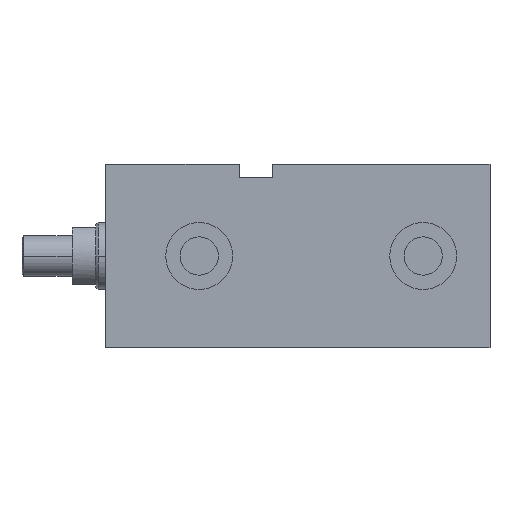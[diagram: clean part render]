
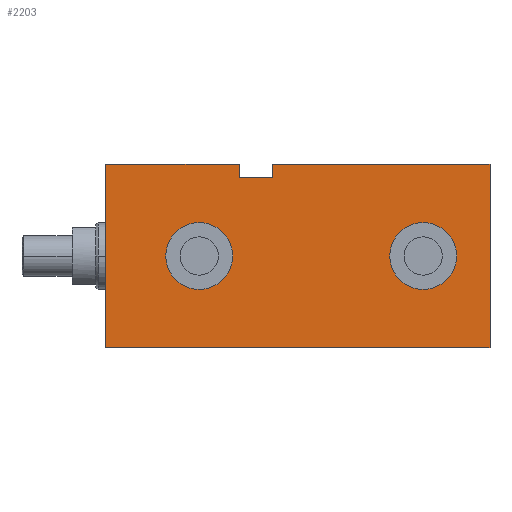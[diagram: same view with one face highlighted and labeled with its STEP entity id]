
A CAD part, left-side view. The second image highlights one B-rep face of the part: STEP entity #2203.
In plain terms, the highlighted planar face has unit normal (-1, 0, 0).
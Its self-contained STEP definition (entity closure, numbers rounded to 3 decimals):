
#36 = AXIS2_PLACEMENT_3D ( 'NONE', #1229, #2849, #1454 ) ;
#46 = DIRECTION ( 'NONE',  ( 0., 0., 1. ) ) ;
#64 = VECTOR ( 'NONE', #146, 1000. ) ;
#146 = DIRECTION ( 'NONE',  ( 0., 0., 1. ) ) ;
#203 = LINE ( 'NONE', #2627, #64 ) ;
#229 = VECTOR ( 'NONE', #793, 1000. ) ;
#243 = AXIS2_PLACEMENT_3D ( 'NONE', #2190, #631, #893 ) ;
#247 = VERTEX_POINT ( 'NONE', #1976 ) ;
#279 = CARTESIAN_POINT ( 'NONE',  ( -37.5, 115., -27.5 ) ) ;
#351 = CARTESIAN_POINT ( 'NONE',  ( -37.5, 20., 0. ) ) ;
#360 = EDGE_CURVE ( 'NONE', #1998, #728, #2748, .T. ) ;
#411 = CIRCLE ( 'NONE', #431, 10. ) ;
#431 = AXIS2_PLACEMENT_3D ( 'NONE', #453, #1992, #667 ) ;
#435 = LINE ( 'NONE', #928, #2770 ) ;
#453 = CARTESIAN_POINT ( 'NONE',  ( -37.5, 87., 0. ) ) ;
#566 = DIRECTION ( 'NONE',  ( 0., 0., 1. ) ) ;
#567 = VERTEX_POINT ( 'NONE', #2782 ) ;
#570 = CARTESIAN_POINT ( 'NONE',  ( -37.5, 65., 23.5 ) ) ;
#601 = CARTESIAN_POINT ( 'NONE',  ( -37.5, 65., 27.5 ) ) ;
#631 = DIRECTION ( 'NONE',  ( -1., 0., 0. ) ) ;
#634 = VERTEX_POINT ( 'NONE', #2293 ) ;
#661 = EDGE_CURVE ( 'NONE', #2573, #2224, #1171, .T. ) ;
#667 = DIRECTION ( 'NONE',  ( 0., 0., 1. ) ) ;
#685 = EDGE_CURVE ( 'NONE', #2224, #247, #1546, .T. ) ;
#728 = VERTEX_POINT ( 'NONE', #2526 ) ;
#740 = FACE_OUTER_BOUND ( 'NONE', #1867, .T. ) ;
#789 = VECTOR ( 'NONE', #2628, 1000. ) ;
#793 = DIRECTION ( 'NONE',  ( 0., 0., 1. ) ) ;
#818 = LINE ( 'NONE', #570, #229 ) ;
#881 = DIRECTION ( 'NONE',  ( 0., -1., 0. ) ) ;
#893 = DIRECTION ( 'NONE',  ( 0., 0., 1. ) ) ;
#897 = CARTESIAN_POINT ( 'NONE',  ( -37.5, 65., 27.5 ) ) ;
#928 = CARTESIAN_POINT ( 'NONE',  ( -37.5, 65., 27.5 ) ) ;
#943 = DIRECTION ( 'NONE',  ( 0., 0., 1. ) ) ;
#962 = VECTOR ( 'NONE', #1583, 1000. ) ;
#1000 = EDGE_CURVE ( 'NONE', #2269, #634, #1571, .T. ) ;
#1013 = EDGE_LOOP ( 'NONE', ( #1260, #1265 ) ) ;
#1030 = VERTEX_POINT ( 'NONE', #2120 ) ;
#1144 = EDGE_CURVE ( 'NONE', #2440, #1030, #2025, .T. ) ;
#1146 = ORIENTED_EDGE ( 'NONE', *, *, #2416, .F. ) ;
#1152 = ORIENTED_EDGE ( 'NONE', *, *, #2158, .F. ) ;
#1157 = ORIENTED_EDGE ( 'NONE', *, *, #1348, .F. ) ;
#1161 = CIRCLE ( 'NONE', #2942, 10. ) ;
#1162 = ORIENTED_EDGE ( 'NONE', *, *, #2590, .T. ) ;
#1170 = CARTESIAN_POINT ( 'NONE',  ( -37.5, 87., -10. ) ) ;
#1171 = LINE ( 'NONE', #2509, #962 ) ;
#1187 = ORIENTED_EDGE ( 'NONE', *, *, #1144, .F. ) ;
#1191 = ORIENTED_EDGE ( 'NONE', *, *, #1889, .F. ) ;
#1198 = ORIENTED_EDGE ( 'NONE', *, *, #661, .T. ) ;
#1227 = ORIENTED_EDGE ( 'NONE', *, *, #685, .T. ) ;
#1229 = CARTESIAN_POINT ( 'NONE',  ( -37.5, 87., 0. ) ) ;
#1235 = ORIENTED_EDGE ( 'NONE', *, *, #2855, .F. ) ;
#1236 = LINE ( 'NONE', #279, #2360 ) ;
#1258 = ORIENTED_EDGE ( 'NONE', *, *, #360, .F. ) ;
#1260 = ORIENTED_EDGE ( 'NONE', *, *, #1683, .F. ) ;
#1265 = ORIENTED_EDGE ( 'NONE', *, *, #1000, .F. ) ;
#1268 = AXIS2_PLACEMENT_3D ( 'NONE', #2485, #2228, #1347 ) ;
#1326 = EDGE_LOOP ( 'NONE', ( #1235, #1258 ) ) ;
#1347 = DIRECTION ( 'NONE',  ( 0., 0., -1. ) ) ;
#1348 = EDGE_CURVE ( 'NONE', #567, #2065, #2711, .T. ) ;
#1356 = CARTESIAN_POINT ( 'NONE',  ( -37.5, 0., -27.5 ) ) ;
#1454 = DIRECTION ( 'NONE',  ( 0., 0., 1. ) ) ;
#1546 = LINE ( 'NONE', #1804, #2144 ) ;
#1571 = CIRCLE ( 'NONE', #36, 10. ) ;
#1583 = DIRECTION ( 'NONE',  ( 0., -1., 0. ) ) ;
#1683 = EDGE_CURVE ( 'NONE', #634, #2269, #411, .T. ) ;
#1755 = CARTESIAN_POINT ( 'NONE',  ( -37.5, 75., 23.5 ) ) ;
#1804 = CARTESIAN_POINT ( 'NONE',  ( -37.5, 0., -27.5 ) ) ;
#1867 = EDGE_LOOP ( 'NONE', ( #1146, #1152, #1157, #1162, #1187, #1191, #1198, #1227 ) ) ;
#1884 = DIRECTION ( 'NONE',  ( -1., 0., 0. ) ) ;
#1889 = EDGE_CURVE ( 'NONE', #2573, #2440, #1236, .T. ) ;
#1976 = CARTESIAN_POINT ( 'NONE',  ( -37.5, 0., 27.5 ) ) ;
#1992 = DIRECTION ( 'NONE',  ( -1., 0., 0. ) ) ;
#1998 = VERTEX_POINT ( 'NONE', #2571 ) ;
#2025 = LINE ( 'NONE', #601, #789 ) ;
#2063 = VECTOR ( 'NONE', #881, 1000. ) ;
#2065 = VERTEX_POINT ( 'NONE', #2098 ) ;
#2098 = CARTESIAN_POINT ( 'NONE',  ( -37.5, 65., 23.5 ) ) ;
#2120 = CARTESIAN_POINT ( 'NONE',  ( -37.5, 75., 27.5 ) ) ;
#2144 = VECTOR ( 'NONE', #46, 1000. ) ;
#2158 = EDGE_CURVE ( 'NONE', #2065, #2193, #818, .T. ) ;
#2190 = CARTESIAN_POINT ( 'NONE',  ( -37.5, 20., 0. ) ) ;
#2193 = VERTEX_POINT ( 'NONE', #897 ) ;
#2203 = ADVANCED_FACE ( 'NONE', ( #740, #2470, #2400 ), #2733, .F. ) ;
#2224 = VERTEX_POINT ( 'NONE', #1356 ) ;
#2228 = DIRECTION ( 'NONE',  ( 1., 0., 0. ) ) ;
#2269 = VERTEX_POINT ( 'NONE', #1170 ) ;
#2293 = CARTESIAN_POINT ( 'NONE',  ( -37.5, 87., 10. ) ) ;
#2360 = VECTOR ( 'NONE', #943, 1000. ) ;
#2400 = FACE_BOUND ( 'NONE', #1013, .T. ) ;
#2416 = EDGE_CURVE ( 'NONE', #2193, #247, #435, .T. ) ;
#2440 = VERTEX_POINT ( 'NONE', #2524 ) ;
#2470 = FACE_BOUND ( 'NONE', #1326, .T. ) ;
#2485 = CARTESIAN_POINT ( 'NONE',  ( -37.5, 65., -27.5 ) ) ;
#2508 = DIRECTION ( 'NONE',  ( 0., -1., 0. ) ) ;
#2509 = CARTESIAN_POINT ( 'NONE',  ( -37.5, 65., -27.5 ) ) ;
#2524 = CARTESIAN_POINT ( 'NONE',  ( -37.5, 115., 27.5 ) ) ;
#2526 = CARTESIAN_POINT ( 'NONE',  ( -37.5, 20., 10. ) ) ;
#2571 = CARTESIAN_POINT ( 'NONE',  ( -37.5, 20., -10. ) ) ;
#2573 = VERTEX_POINT ( 'NONE', #2619 ) ;
#2590 = EDGE_CURVE ( 'NONE', #567, #1030, #203, .T. ) ;
#2619 = CARTESIAN_POINT ( 'NONE',  ( -37.5, 115., -27.5 ) ) ;
#2627 = CARTESIAN_POINT ( 'NONE',  ( -37.5, 75., 23.5 ) ) ;
#2628 = DIRECTION ( 'NONE',  ( 0., -1., 0. ) ) ;
#2711 = LINE ( 'NONE', #1755, #2063 ) ;
#2733 = PLANE ( 'NONE',  #1268 ) ;
#2748 = CIRCLE ( 'NONE', #243, 10. ) ;
#2770 = VECTOR ( 'NONE', #2508, 1000. ) ;
#2782 = CARTESIAN_POINT ( 'NONE',  ( -37.5, 75., 23.5 ) ) ;
#2849 = DIRECTION ( 'NONE',  ( -1., 0., 0. ) ) ;
#2855 = EDGE_CURVE ( 'NONE', #728, #1998, #1161, .T. ) ;
#2942 = AXIS2_PLACEMENT_3D ( 'NONE', #351, #1884, #566 ) ;
